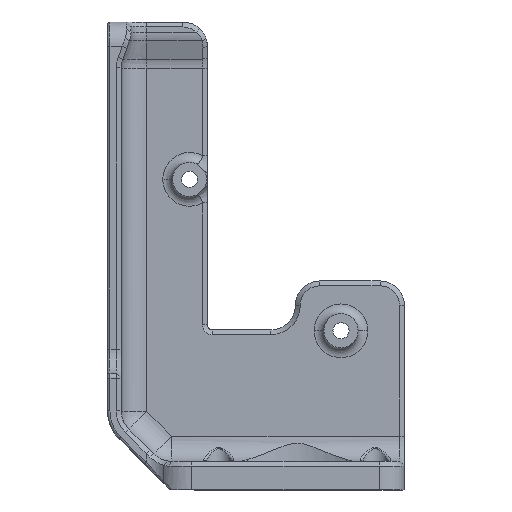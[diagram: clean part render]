
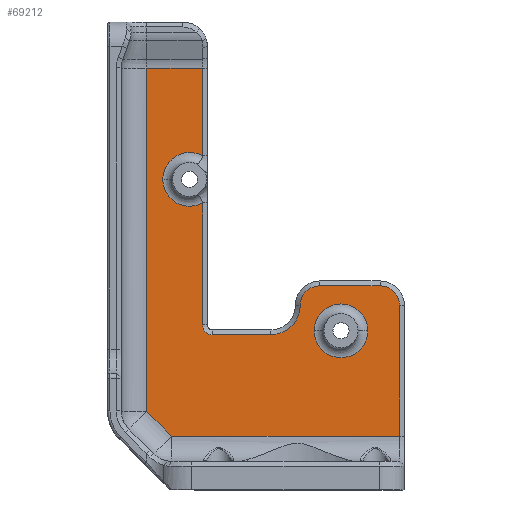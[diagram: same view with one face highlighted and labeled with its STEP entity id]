
A CAD part, top view. The second image highlights one B-rep face of the part: STEP entity #69212.
In plain terms, the highlighted planar face has unit normal (0, 0, 1).
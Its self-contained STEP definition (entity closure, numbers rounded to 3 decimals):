
#66169=AXIS2_PLACEMENT_3D('Circle Axis2P3D',#66167,#66168,$) ;
#66217=AXIS2_PLACEMENT_3D('Circle Axis2P3D',#66215,#66216,$) ;
#66241=AXIS2_PLACEMENT_3D('Circle Axis2P3D',#66239,#66240,$) ;
#68863=AXIS2_PLACEMENT_3D('Circle Axis2P3D',#68861,#68862,$) ;
#68887=AXIS2_PLACEMENT_3D('Circle Axis2P3D',#68885,#68886,$) ;
#68941=AXIS2_PLACEMENT_3D('Circle Axis2P3D',#68939,#68940,$) ;
#68953=AXIS2_PLACEMENT_3D('Circle Axis2P3D',#68951,#68952,$) ;
#69174=AXIS2_PLACEMENT_3D('Plane Axis2P3D',#69171,#69172,#69173) ;
#63003=CARTESIAN_POINT('Vertex',(59.8,5.,2.8)) ;
#63006=CARTESIAN_POINT('Line Origine',(34.4,5.,2.8)) ;
#63010=CARTESIAN_POINT('Vertex',(13.114,5.,2.8)) ;
#66109=CARTESIAN_POINT('Vertex',(19.45,80.388,2.8)) ;
#66112=CARTESIAN_POINT('Line Origine',(19.45,43.061,2.8)) ;
#66116=CARTESIAN_POINT('Vertex',(19.45,62.419,2.8)) ;
#66140=CARTESIAN_POINT('Vertex',(19.45,52.781,2.8)) ;
#66143=CARTESIAN_POINT('Line Origine',(19.45,43.061,2.8)) ;
#66147=CARTESIAN_POINT('Vertex',(19.45,27.8,2.8)) ;
#66167=CARTESIAN_POINT('Axis2P3D Location',(21.45,27.8,2.8)) ;
#66171=CARTESIAN_POINT('Vertex',(21.45,25.8,2.8)) ;
#66191=CARTESIAN_POINT('Line Origine',(34.4,25.8,2.8)) ;
#66195=CARTESIAN_POINT('Vertex',(33.45,25.8,2.8)) ;
#66215=CARTESIAN_POINT('Axis2P3D Location',(33.45,31.8,2.8)) ;
#66219=CARTESIAN_POINT('Vertex',(39.45,31.8,2.8)) ;
#66239=CARTESIAN_POINT('Axis2P3D Location',(43.45,31.8,2.8)) ;
#66243=CARTESIAN_POINT('Vertex',(43.45,35.8,2.8)) ;
#66270=CARTESIAN_POINT('Line Origine',(13.638,4.475,2.8)) ;
#66274=CARTESIAN_POINT('Vertex',(8.,10.114,2.8)) ;
#68444=CARTESIAN_POINT('Vertex',(8.,80.388,2.8)) ;
#68858=CARTESIAN_POINT('Vertex',(42.3,26.6,2.8)) ;
#68861=CARTESIAN_POINT('Axis2P3D Location',(47.8,26.6,2.8)) ;
#68865=CARTESIAN_POINT('Vertex',(53.3,26.6,2.8)) ;
#68885=CARTESIAN_POINT('Axis2P3D Location',(47.8,26.6,2.8)) ;
#68902=CARTESIAN_POINT('Line Origine',(34.4,80.388,2.8)) ;
#68919=CARTESIAN_POINT('Line Origine',(8.,49.957,2.8)) ;
#68936=CARTESIAN_POINT('Vertex',(11.3,57.6,2.8)) ;
#68939=CARTESIAN_POINT('Axis2P3D Location',(16.8,57.6,2.8)) ;
#68951=CARTESIAN_POINT('Axis2P3D Location',(16.8,57.6,2.8)) ;
#68968=CARTESIAN_POINT('Line Origine',(34.4,35.8,2.8)) ;
#68972=CARTESIAN_POINT('Vertex',(55.8,35.8,2.8)) ;
#69171=CARTESIAN_POINT('Axis2P3D Location',(0.,0.,2.8)) ;
#69176=CARTESIAN_POINT('Line Origine',(59.8,43.3,2.8)) ;
#69180=CARTESIAN_POINT('Vertex',(59.8,31.8,2.8)) ;
#69184=CARTESIAN_POINT('Control Point',(55.8,35.8,2.8)) ;
#69185=CARTESIAN_POINT('Control Point',(57.057,35.8,2.8)) ;
#69186=CARTESIAN_POINT('Control Point',(58.314,35.308,2.8)) ;
#69187=CARTESIAN_POINT('Control Point',(59.308,34.314,2.8)) ;
#69188=CARTESIAN_POINT('Control Point',(59.8,33.057,2.8)) ;
#69189=CARTESIAN_POINT('Control Point',(59.8,31.8,2.8)) ;
#63007=DIRECTION('Vector Direction',(-1.,0.,0.)) ;
#66113=DIRECTION('Vector Direction',(0.,1.,0.)) ;
#66144=DIRECTION('Vector Direction',(0.,1.,0.)) ;
#66168=DIRECTION('Axis2P3D Direction',(0.,-0.,-1.)) ;
#66192=DIRECTION('Vector Direction',(-1.,0.,0.)) ;
#66216=DIRECTION('Axis2P3D Direction',(0.,0.,-1.)) ;
#66240=DIRECTION('Axis2P3D Direction',(0.,0.,-1.)) ;
#66271=DIRECTION('Vector Direction',(-0.707,0.707,0.)) ;
#68862=DIRECTION('Axis2P3D Direction',(0.,0.,-1.)) ;
#68886=DIRECTION('Axis2P3D Direction',(-0.,0.,-1.)) ;
#68903=DIRECTION('Vector Direction',(-1.,0.,0.)) ;
#68920=DIRECTION('Vector Direction',(0.,-1.,0.)) ;
#68940=DIRECTION('Axis2P3D Direction',(0.,0.,-1.)) ;
#68952=DIRECTION('Axis2P3D Direction',(-0.,0.,-1.)) ;
#68969=DIRECTION('Vector Direction',(1.,0.,0.)) ;
#69172=DIRECTION('Axis2P3D Direction',(0.,0.,-1.)) ;
#69173=DIRECTION('Axis2P3D XDirection',(1.,0.,0.)) ;
#69177=DIRECTION('Vector Direction',(0.,-1.,0.)) ;
#63008=VECTOR('Line Direction',#63007,1.) ;
#66114=VECTOR('Line Direction',#66113,1.) ;
#66145=VECTOR('Line Direction',#66144,1.) ;
#66193=VECTOR('Line Direction',#66192,1.) ;
#66272=VECTOR('Line Direction',#66271,1.) ;
#68904=VECTOR('Line Direction',#68903,1.) ;
#68921=VECTOR('Line Direction',#68920,1.) ;
#68970=VECTOR('Line Direction',#68969,1.) ;
#69178=VECTOR('Line Direction',#69177,1.) ;
#69192=ORIENTED_EDGE('',*,*,#68906,.T.) ;
#69193=ORIENTED_EDGE('',*,*,#68923,.T.) ;
#69194=ORIENTED_EDGE('',*,*,#66276,.F.) ;
#69195=ORIENTED_EDGE('',*,*,#63012,.T.) ;
#69196=ORIENTED_EDGE('',*,*,#69182,.F.) ;
#69197=ORIENTED_EDGE('',*,*,#69190,.F.) ;
#69198=ORIENTED_EDGE('',*,*,#68974,.F.) ;
#69199=ORIENTED_EDGE('',*,*,#66245,.F.) ;
#69200=ORIENTED_EDGE('',*,*,#66221,.F.) ;
#69201=ORIENTED_EDGE('',*,*,#66197,.F.) ;
#69202=ORIENTED_EDGE('',*,*,#66173,.F.) ;
#69203=ORIENTED_EDGE('',*,*,#66149,.F.) ;
#69204=ORIENTED_EDGE('',*,*,#68943,.T.) ;
#69205=ORIENTED_EDGE('',*,*,#68955,.T.) ;
#69206=ORIENTED_EDGE('',*,*,#66118,.F.) ;
#69209=ORIENTED_EDGE('',*,*,#68867,.T.) ;
#69210=ORIENTED_EDGE('',*,*,#68889,.T.) ;
#69211=FACE_BOUND('',#69208,.T.) ;
#69212=ADVANCED_FACE('HEMERA_Doppia_5015_Ventola_Inserti',(#69207,#69211),#69175,.F.) ;
#69183=B_SPLINE_CURVE_WITH_KNOTS('',5,(#69184,#69185,#69186,#69187,#69188,#69189),.UNSPECIFIED.,.F.,.U.,(6,6),(18.85,25.133),.UNSPECIFIED.) ;
#66170=CIRCLE('generated circle',#66169,2.) ;
#66218=CIRCLE('generated circle',#66217,6.) ;
#66242=CIRCLE('generated circle',#66241,4.) ;
#68864=CIRCLE('generated circle',#68863,5.5) ;
#68888=CIRCLE('generated circle',#68887,5.5) ;
#68942=CIRCLE('generated circle',#68941,5.5) ;
#68954=CIRCLE('generated circle',#68953,5.5) ;
#63012=EDGE_CURVE('',#63011,#63004,#63009,.F.) ;
#66118=EDGE_CURVE('',#66110,#66117,#66115,.F.) ;
#66149=EDGE_CURVE('',#66141,#66148,#66146,.F.) ;
#66173=EDGE_CURVE('',#66148,#66172,#66170,.F.) ;
#66197=EDGE_CURVE('',#66172,#66196,#66194,.F.) ;
#66221=EDGE_CURVE('',#66196,#66220,#66218,.F.) ;
#66245=EDGE_CURVE('',#66220,#66244,#66242,.T.) ;
#66276=EDGE_CURVE('',#63011,#66275,#66273,.T.) ;
#68867=EDGE_CURVE('',#68866,#68859,#68864,.T.) ;
#68889=EDGE_CURVE('',#68859,#68866,#68888,.T.) ;
#68906=EDGE_CURVE('',#66110,#68445,#68905,.T.) ;
#68923=EDGE_CURVE('',#68445,#66275,#68922,.T.) ;
#68943=EDGE_CURVE('',#66141,#68937,#68942,.T.) ;
#68955=EDGE_CURVE('',#68937,#66117,#68954,.T.) ;
#68974=EDGE_CURVE('',#66244,#68973,#68971,.T.) ;
#69182=EDGE_CURVE('',#69181,#63004,#69179,.T.) ;
#69190=EDGE_CURVE('',#68973,#69181,#69183,.T.) ;
#69191=EDGE_LOOP('',(#69192,#69193,#69194,#69195,#69196,#69197,#69198,#69199,#69200,#69201,#69202,#69203,#69204,#69205,#69206)) ;
#69208=EDGE_LOOP('',(#69209,#69210)) ;
#69207=FACE_OUTER_BOUND('',#69191,.T.) ;
#63009=LINE('Line',#63006,#63008) ;
#66115=LINE('Line',#66112,#66114) ;
#66146=LINE('Line',#66143,#66145) ;
#66194=LINE('Line',#66191,#66193) ;
#66273=LINE('Line',#66270,#66272) ;
#68905=LINE('Line',#68902,#68904) ;
#68922=LINE('Line',#68919,#68921) ;
#68971=LINE('Line',#68968,#68970) ;
#69179=LINE('Line',#69176,#69178) ;
#69175=PLANE('',#69174) ;
#63004=VERTEX_POINT('',#63003) ;
#63011=VERTEX_POINT('',#63010) ;
#66110=VERTEX_POINT('',#66109) ;
#66117=VERTEX_POINT('',#66116) ;
#66141=VERTEX_POINT('',#66140) ;
#66148=VERTEX_POINT('',#66147) ;
#66172=VERTEX_POINT('',#66171) ;
#66196=VERTEX_POINT('',#66195) ;
#66220=VERTEX_POINT('',#66219) ;
#66244=VERTEX_POINT('',#66243) ;
#66275=VERTEX_POINT('',#66274) ;
#68445=VERTEX_POINT('',#68444) ;
#68859=VERTEX_POINT('',#68858) ;
#68866=VERTEX_POINT('',#68865) ;
#68937=VERTEX_POINT('',#68936) ;
#68973=VERTEX_POINT('',#68972) ;
#69181=VERTEX_POINT('',#69180) ;
